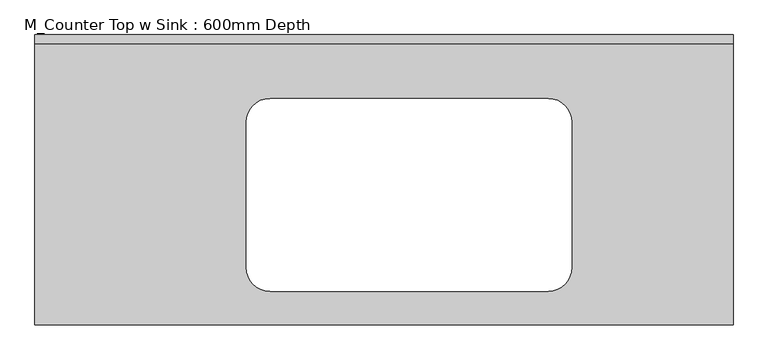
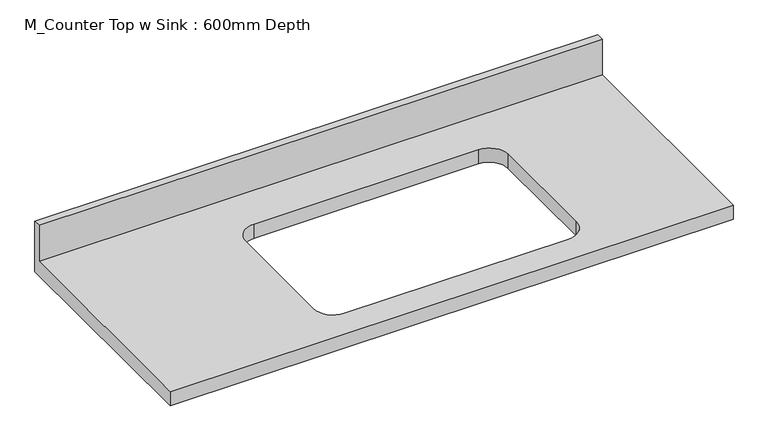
"""IFC4 building model written with IfcOpenShell, lengths in millimetres: furniture geometry, M_Counter Top w Sink : 600mm Depth."""

from ifc_helpers import new_model, si_unit, frame, origin, place, context, project, spatial, polyline, circle_curve, source, transform, mapped, element, save
from ifc_brep_helpers import plane_surface, revolved_surface, advanced_brep


def m_counter_top_w_sink_600mm_depth_3438d379(model_context):
    return source(origin(), model_context, "Body", "AdvancedBrep", [
        advanced_brep(
        [(-1200.4622951, -625.0, 900.0), (303.1520196, -625.0, 900.0), (303.1520196, -19.05, 900.0), (-1200.4622951, -19.05, 900.0), (-694.1617062, -137.3, 900.0), (-95.3617062, -137.3, 900.0), (-44.5617062, -188.1, 900.0), (-44.5617062, -501.9, 900.0), (-95.3617062, -552.7, 900.0), (-694.1617062, -552.7, 900.0), (-744.9617062, -501.9, 900.0), (-744.9617062, -188.1, 900.0), (303.1520196, 0.0, 860.0), (303.1520196, -625.0, 860.0), (-1200.4622951, -625.0, 860.0), (-1200.4622951, 0.0, 860.0), (-95.3617062, -137.3, 860.0), (-694.1617062, -137.3, 860.0), (-744.9617062, -188.1, 860.0), (-744.9617062, -501.9, 860.0), (-694.1617062, -552.7, 860.0), (-95.3617062, -552.7, 860.0), (-44.5617062, -501.9, 860.0), (-44.5617062, -188.1, 860.0), (-1200.4622951, 0.0, 1001.6), (303.1520196, 0.0, 1001.6), (-1200.4622951, -19.05, 1001.6), (303.1520196, -19.05, 1001.6)],
        [
            (0, 1),
            (1, 2),
            (2, 3),
            (3, 0),
            (4, 5),
            (5, 6, circle_curve(frame((-95.3617062, -188.1, 900.0), z_axis=(0.0, 0.0, -1.0), x_axis=(1.0, 0.0, 0.0)), 50.8)),
            (6, 7),
            (7, 8, circle_curve(frame((-95.3617062, -501.9, 900.0), z_axis=(0.0, 0.0, -1.0), x_axis=(1.0, 0.0, 0.0)), 50.8)),
            (8, 9),
            (9, 10, circle_curve(frame((-694.1617062, -501.9, 900.0), z_axis=(0.0, 0.0, -1.0), x_axis=(1.0, 0.0, 0.0)), 50.8)),
            (10, 11),
            (11, 4, circle_curve(frame((-694.1617062, -188.1, 900.0), z_axis=(0.0, 0.0, -1.0), x_axis=(1.0, 0.0, 0.0)), 50.8)),
            (12, 13),
            (13, 14),
            (14, 15),
            (15, 12),
            (16, 17),
            (17, 18, circle_curve(frame((-694.1617062, -188.1, 860.0), z_axis=(0.0, 0.0, 1.0), x_axis=(1.0, 0.0, 0.0)), 50.8)),
            (18, 19),
            (19, 20, circle_curve(frame((-694.1617062, -501.9, 860.0), z_axis=(0.0, 0.0, 1.0), x_axis=(1.0, 0.0, 0.0)), 50.8)),
            (20, 21),
            (21, 22, circle_curve(frame((-95.3617062, -501.9, 860.0), z_axis=(0.0, 0.0, 1.0), x_axis=(1.0, 0.0, 0.0)), 50.8)),
            (22, 23),
            (23, 16, circle_curve(frame((-95.3617062, -188.1, 860.0), z_axis=(0.0, 0.0, 1.0), x_axis=(1.0, 0.0, 0.0)), 50.8)),
            (15, 24),
            (24, 25),
            (25, 12),
            (14, 0),
            (3, 26),
            (26, 24),
            (13, 1),
            (25, 27),
            (27, 2),
            (26, 27),
            (4, 17),
            (16, 5),
            (11, 18),
            (10, 19),
            (9, 20),
            (8, 21),
            (7, 22),
            (6, 23),
        ],
        [
            plane_surface(frame((-1200.4622951, 0.0, 900.0), z_axis=(0.0, 0.0, 1.0), x_axis=(-1.0, 0.0, 0.0))),
            plane_surface(frame((-1200.4622951, 0.0, 860.0), z_axis=(0.0, 0.0, -1.0), x_axis=(1.0, 0.0, 0.0))),
            plane_surface(frame((303.1520196, 0.0, 900.0), z_axis=(0.0, 1.0, 0.0), x_axis=(0.0, 0.0, -1.0))),
            plane_surface(frame((-1200.4622951, 0.0, 900.0), z_axis=(-1.0, 0.0, 0.0), x_axis=(0.0, 0.0, -1.0))),
            plane_surface(frame((-1200.4622951, -625.0, 900.0), z_axis=(0.0, -1.0, 0.0), x_axis=(0.0, 0.0, -1.0))),
            plane_surface(frame((303.1520196, -625.0, 900.0), z_axis=(1.0, 0.0, 0.0), x_axis=(0.0, 0.0, -1.0))),
            plane_surface(frame((-1200.4622951, 0.0, 1001.6), z_axis=(0.0, 0.0, 1.0), x_axis=(0.0, -1.0, 0.0))),
            plane_surface(frame((-1200.4622951, -19.05, 1001.6), z_axis=(0.0, -1.0, 0.0), x_axis=(0.0, 0.0, -1.0))),
            plane_surface(frame((-95.3617062, -137.3, 900.0), z_axis=(0.0, -1.0, 0.0), x_axis=(0.0, 0.0, -1.0))),
            revolved_surface(polyline([(-643.3617062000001, -188.1, 900.0), (-643.3617062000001, -188.1, 860.0)]), (-694.1617062, -188.1, 860.0), (0.0, 0.0, 1.0)),
            plane_surface(frame((-744.9617062, -188.1, 900.0), z_axis=(1.0, 0.0, 0.0), x_axis=(0.0, 0.0, -1.0))),
            revolved_surface(polyline([(-643.3617062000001, -501.9, 900.0), (-643.3617062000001, -501.9, 860.0)]), (-694.1617062, -501.9, 860.0), (0.0, 0.0, 1.0)),
            plane_surface(frame((-694.1617062, -552.7, 900.0), z_axis=(0.0, 1.0, 0.0), x_axis=(0.0, 0.0, -1.0))),
            revolved_surface(polyline([(-44.5617062, -501.9, 900.0), (-44.5617062, -501.9, 860.0)]), (-95.3617062, -501.9, 860.0), (0.0, 0.0, 1.0)),
            plane_surface(frame((-44.5617062, -501.9, 900.0), z_axis=(-1.0, 0.0, 0.0), x_axis=(0.0, 0.0, -1.0))),
            revolved_surface(polyline([(-44.5617062, -188.1, 900.0), (-44.5617062, -188.1, 860.0)]), (-95.3617062, -188.1, 860.0), (0.0, 0.0, 1.0)),
        ],
        [
            (0, [[1, 2, 3, 4], [5, 6, 7, 8, 9, 10, 11, 12]]),
            (1, [[13, 14, 15, 16], [17, 18, 19, 20, 21, 22, 23, 24]]),
            (2, [[-16, 25, 26, 27]]),
            (3, [[-15, 28, -4, 29, 30, -25]]),
            (4, [[-1, -28, -14, 31]]),
            (5, [[-13, -27, 32, 33, -2, -31]]),
            (6, [[-30, 34, -32, -26]]),
            (7, [[-34, -29, -3, -33]]),
            (8, [[35, -17, 36, -5]]),
            (9, [[-35, -12, 37, -18]]),
            (10, [[-37, -11, 38, -19]]),
            (11, [[-38, -10, 39, -20]]),
            (12, [[-39, -9, 40, -21]]),
            (13, [[-40, -8, 41, -22]]),
            (14, [[-41, -7, 42, -23]]),
            (15, [[-36, -24, -42, -6]]),
        ],
    ),
    ])


if __name__ == "__main__":
    model = new_model("IFC4")
    model_context = context("Model", 3, world=origin())
    ifc_project = project(units=[si_unit("LENGTHUNIT", "METRE", prefix="MILLI")], contexts=[model_context])
    site = spatial("IfcSite", under=ifc_project)
    building = spatial("IfcBuilding", under=site)
    placement = place(None, origin())
    m_counter_top_w_sink_600mm_depth_shape = m_counter_top_w_sink_600mm_depth_3438d379(model_context)
    element("IfcFurniture", 1, ObjectType="M_Counter Top w Sink : 600mm Depth", at=placement, inside=building, context=model_context, shape_type="MappedRepresentation", body=[
        mapped(m_counter_top_w_sink_600mm_depth_shape, transform((0.0, 0.0, 0.0), x_axis=(1.0, 0.0, 0.0), y_axis=(0.0, 1.0, 0.0), z_axis=(0.0, 0.0, 1.0))),
    ])
    save(model, "model.ifc")
